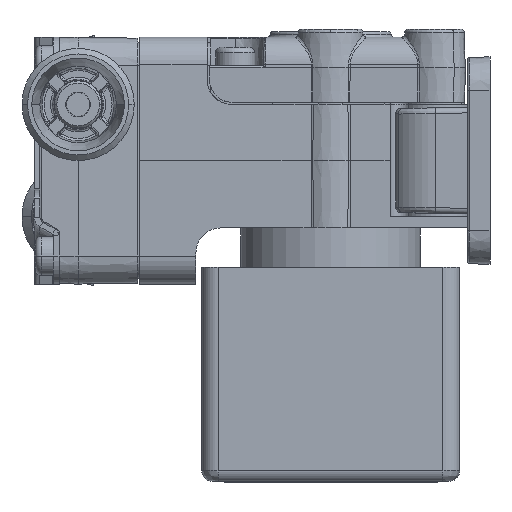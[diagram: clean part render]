
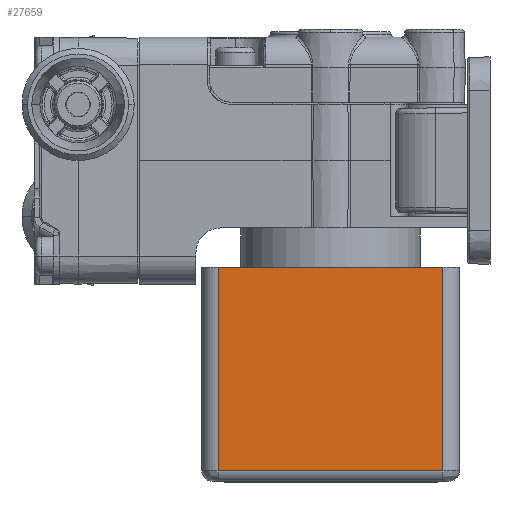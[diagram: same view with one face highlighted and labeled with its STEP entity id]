
A CAD part, left-side view. The second image highlights one B-rep face of the part: STEP entity #27659.
In plain terms, the highlighted planar face has unit normal (-1, 0, 0).
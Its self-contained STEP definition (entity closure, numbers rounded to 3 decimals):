
#9825=DIRECTION('',(0.,1.,0.));
#9826=VECTOR('',#9825,20.);
#9827=CARTESIAN_POINT('',(-12.,-10.,-9.5));
#9828=LINE('',#9827,#9826);
#10191=DIRECTION('',(0.,1.,0.));
#10192=VECTOR('',#10191,20.);
#10193=CARTESIAN_POINT('',(-12.,-10.,-27.6));
#10194=LINE('',#10193,#10192);
#10198=DIRECTION('',(0.,0.,1.));
#10199=VECTOR('',#10198,18.1);
#10200=CARTESIAN_POINT('',(-12.,10.,-27.6));
#10201=LINE('',#10200,#10199);
#10229=DIRECTION('',(0.,0.,1.));
#10230=VECTOR('',#10229,18.1);
#10231=CARTESIAN_POINT('',(-12.,-10.,-27.6));
#10232=LINE('',#10231,#10230);
#14870=CARTESIAN_POINT('',(-12.,10.,-9.5));
#14871=VERTEX_POINT('',#14870);
#14872=CARTESIAN_POINT('',(-12.,-10.,-9.5));
#14873=VERTEX_POINT('',#14872);
#14880=CARTESIAN_POINT('',(-12.,10.,-27.6));
#14882=VERTEX_POINT('',#14880);
#14906=CARTESIAN_POINT('',(-12.,-10.,-27.6));
#14907=VERTEX_POINT('',#14906);
#27646=CARTESIAN_POINT('',(-12.,10.,-9.5));
#27647=DIRECTION('',(-1.,0.,0.));
#27648=DIRECTION('',(0.,-1.,0.));
#27649=AXIS2_PLACEMENT_3D('',#27646,#27647,#27648);
#27650=PLANE('',#27649);
#27652=ORIENTED_EDGE('',*,*,#27651,.T.);
#27653=ORIENTED_EDGE('',*,*,#27634,.T.);
#27654=ORIENTED_EDGE('',*,*,#27300,.F.);
#27656=ORIENTED_EDGE('',*,*,#27655,.F.);
#27657=EDGE_LOOP('',(#27652,#27653,#27654,#27656));
#27658=FACE_OUTER_BOUND('',#27657,.F.);
#27300=EDGE_CURVE('',#14873,#14871,#9828,.T.);
#27634=EDGE_CURVE('',#14882,#14871,#10201,.T.);
#27651=EDGE_CURVE('',#14907,#14882,#10194,.T.);
#27655=EDGE_CURVE('',#14907,#14873,#10232,.T.);
#27659=ADVANCED_FACE('',(#27658),#27650,.T.);
